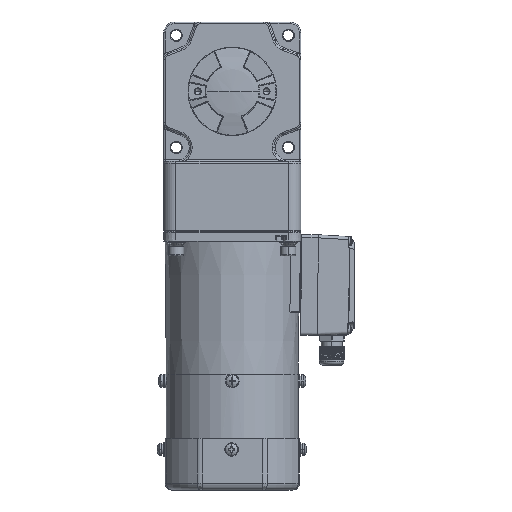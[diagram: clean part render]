
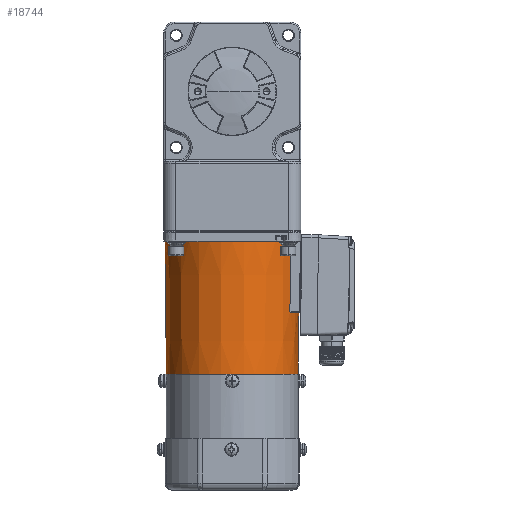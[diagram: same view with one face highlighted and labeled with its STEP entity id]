
A CAD part, front view. The second image highlights one B-rep face of the part: STEP entity #18744.
In plain terms, the highlighted conical face has half-angle 0.5 degrees and reference radius 43.62 mm.
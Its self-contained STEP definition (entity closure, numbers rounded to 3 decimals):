
#633 = VERTEX_POINT ( 'NONE', #99756 ) ;
#5609 = LINE ( 'NONE', #43942, #68769 ) ;
#6980 = CARTESIAN_POINT ( 'NONE',  ( 12.887, -1.862, 192.785 ) ) ;
#7503 = CARTESIAN_POINT ( 'NONE',  ( 12.837, -2.046, 198.161 ) ) ;
#10408 = CARTESIAN_POINT ( 'NONE',  ( -68.302, 19.596, 152.25 ) ) ;
#12762 = ORIENTED_EDGE ( 'NONE', *, *, #46277, .F. ) ;
#14012 = DIRECTION ( 'NONE',  ( -1., 0., 0. ) ) ;
#15175 = AXIS2_PLACEMENT_3D ( 'NONE', #103726, #17655, #56018 ) ;
#16968 = CARTESIAN_POINT ( 'NONE',  ( 13.018, -2.359, 234.096 ) ) ;
#17655 = DIRECTION ( 'NONE',  ( 0., 0., -1. ) ) ;
#18744 = ADVANCED_FACE ( 'NONE', ( #23454 ), #86581, .T. ) ;
#19851 = CARTESIAN_POINT ( 'NONE',  ( 18.18, 19.596, 152.25 ) ) ;
#22785 = CARTESIAN_POINT ( 'NONE',  ( 12.977, -1.701, 192.75 ) ) ;
#23121 = CARTESIAN_POINT ( 'NONE',  ( -69.061, 19.596, 239.25 ) ) ;
#23454 = FACE_OUTER_BOUND ( 'NONE', #87095, .T. ) ;
#25833 = CARTESIAN_POINT ( 'NONE',  ( 12.977, -1.701, 192.75 ) ) ;
#26456 = CARTESIAN_POINT ( 'NONE',  ( 12.811, -2.001, 193.047 ) ) ;
#30381 = CIRCLE ( 'NONE', #100588, 43.241 ) ;
#30957 = EDGE_CURVE ( 'NONE', #93325, #46982, #69399, .T. ) ;
#31151 = CARTESIAN_POINT ( 'NONE',  ( -25.061, 19.596, 192.75 ) ) ;
#32394 = AXIS2_PLACEMENT_3D ( 'NONE', #61839, #100084, #14012 ) ;
#35867 = CARTESIAN_POINT ( 'NONE',  ( 12.826, -1.973, 192.921 ) ) ;
#36510 = DIRECTION ( 'NONE',  ( 1., 0., 0. ) ) ;
#43942 = CARTESIAN_POINT ( 'NONE',  ( 18.533, 19.596, 192.75 ) ) ;
#44191 = ORIENTED_EDGE ( 'NONE', *, *, #68875, .F. ) ;
#45311 = CARTESIAN_POINT ( 'NONE',  ( 12.849, -1.93, 192.856 ) ) ;
#45838 = CARTESIAN_POINT ( 'NONE',  ( 12.811, -2.001, 193.047 ) ) ;
#46277 = EDGE_CURVE ( 'NONE', #46759, #93096, #30381, .T. ) ;
#46443 = B_SPLINE_CURVE_WITH_KNOTS ( 'NONE', 3,
 ( #25833, #93090, #6980, #45311, #83649, #121928, #35867, #74209, #112501, #26456 ),
 .UNSPECIFIED., .F., .F.,
 ( 4, 2, 2, 2, 4 ),
 ( 0., 0.5, 0.625, 0.75, 1. ),
 .UNSPECIFIED. ) ;
#46759 = VERTEX_POINT ( 'NONE', #19851 ) ;
#46982 = VERTEX_POINT ( 'NONE', #114403 ) ;
#51318 = B_SPLINE_CURVE_WITH_KNOTS ( 'NONE', 3,
 ( #103031, #16968, #55312, #93617, #7503, #45838 ),
 .UNSPECIFIED., .F., .F.,
 ( 4, 1, 1, 4 ),
 ( 0., 0.333, 0.667, 1. ),
 .UNSPECIFIED. ) ;
#54968 = ORIENTED_EDGE ( 'NONE', *, *, #112849, .T. ) ;
#55312 = CARTESIAN_POINT ( 'NONE',  ( 12.966, -2.269, 223.802 ) ) ;
#56018 = DIRECTION ( 'NONE',  ( 0.866, -0.5, 0. ) ) ;
#60191 = ORIENTED_EDGE ( 'NONE', *, *, #30957, .T. ) ;
#61508 = DIRECTION ( 'NONE',  ( 0.009, 0., -1. ) ) ;
#61839 = CARTESIAN_POINT ( 'NONE',  ( -25.061, 19.596, 195.75 ) ) ;
#62167 = ORIENTED_EDGE ( 'NONE', *, *, #76750, .T. ) ;
#64475 = AXIS2_PLACEMENT_3D ( 'NONE', #31151, #69505, #107770 ) ;
#65913 = EDGE_CURVE ( 'NONE', #93325, #633, #51318, .T. ) ;
#68769 = VECTOR ( 'NONE', #82272, 1000. ) ;
#68875 = EDGE_CURVE ( 'NONE', #94303, #46759, #5609, .T. ) ;
#69399 = CIRCLE ( 'NONE', #15175, 44. ) ;
#69505 = DIRECTION ( 'NONE',  ( 0., 0., -1. ) ) ;
#71781 = ORIENTED_EDGE ( 'NONE', *, *, #122340, .T. ) ;
#74209 = CARTESIAN_POINT ( 'NONE',  ( 12.814, -1.993, 192.973 ) ) ;
#76750 = EDGE_CURVE ( 'NONE', #94303, #110226, #118512, .T. ) ;
#82272 = DIRECTION ( 'NONE',  ( -0.009, 0., -1. ) ) ;
#83649 = CARTESIAN_POINT ( 'NONE',  ( 12.842, -1.942, 192.871 ) ) ;
#84274 = CARTESIAN_POINT ( 'NONE',  ( -25.061, 19.596, 152.25 ) ) ;
#86581 = CONICAL_SURFACE ( 'NONE', #32394, 43.62, 0.009 ) ;
#87095 = EDGE_LOOP ( 'NONE', ( #60191, #54968, #12762, #44191, #62167, #71781, #101567 ) ) ;
#90854 = VECTOR ( 'NONE', #61508, 1000. ) ;
#93090 = CARTESIAN_POINT ( 'NONE',  ( 12.931, -1.783, 192.75 ) ) ;
#93096 = VERTEX_POINT ( 'NONE', #10408 ) ;
#93325 = VERTEX_POINT ( 'NONE', #121561 ) ;
#93617 = CARTESIAN_POINT ( 'NONE',  ( 12.889, -2.135, 208.402 ) ) ;
#94303 = VERTEX_POINT ( 'NONE', #123892 ) ;
#99756 = CARTESIAN_POINT ( 'NONE',  ( 12.811, -2.001, 193.047 ) ) ;
#100084 = DIRECTION ( 'NONE',  ( 0., 0., 1. ) ) ;
#100588 = AXIS2_PLACEMENT_3D ( 'NONE', #84274, #122567, #36510 ) ;
#101567 = ORIENTED_EDGE ( 'NONE', *, *, #65913, .F. ) ;
#103031 = CARTESIAN_POINT ( 'NONE',  ( 13.044, -2.404, 239.25 ) ) ;
#103726 = CARTESIAN_POINT ( 'NONE',  ( -25.061, 19.596, 239.25 ) ) ;
#107770 = DIRECTION ( 'NONE',  ( 1., 0., 0. ) ) ;
#109192 = LINE ( 'NONE', #23121, #90854 ) ;
#110226 = VERTEX_POINT ( 'NONE', #22785 ) ;
#112501 = CARTESIAN_POINT ( 'NONE',  ( 12.811, -2., 193.009 ) ) ;
#112849 = EDGE_CURVE ( 'NONE', #46982, #93096, #109192, .T. ) ;
#114403 = CARTESIAN_POINT ( 'NONE',  ( -69.061, 19.596, 239.25 ) ) ;
#118512 = CIRCLE ( 'NONE', #64475, 43.594 ) ;
#121561 = CARTESIAN_POINT ( 'NONE',  ( 13.044, -2.404, 239.25 ) ) ;
#121928 = CARTESIAN_POINT ( 'NONE',  ( 12.831, -1.963, 192.903 ) ) ;
#122340 = EDGE_CURVE ( 'NONE', #110226, #633, #46443, .T. ) ;
#122567 = DIRECTION ( 'NONE',  ( 0., 0., -1. ) ) ;
#123892 = CARTESIAN_POINT ( 'NONE',  ( 18.533, 19.596, 192.75 ) ) ;
